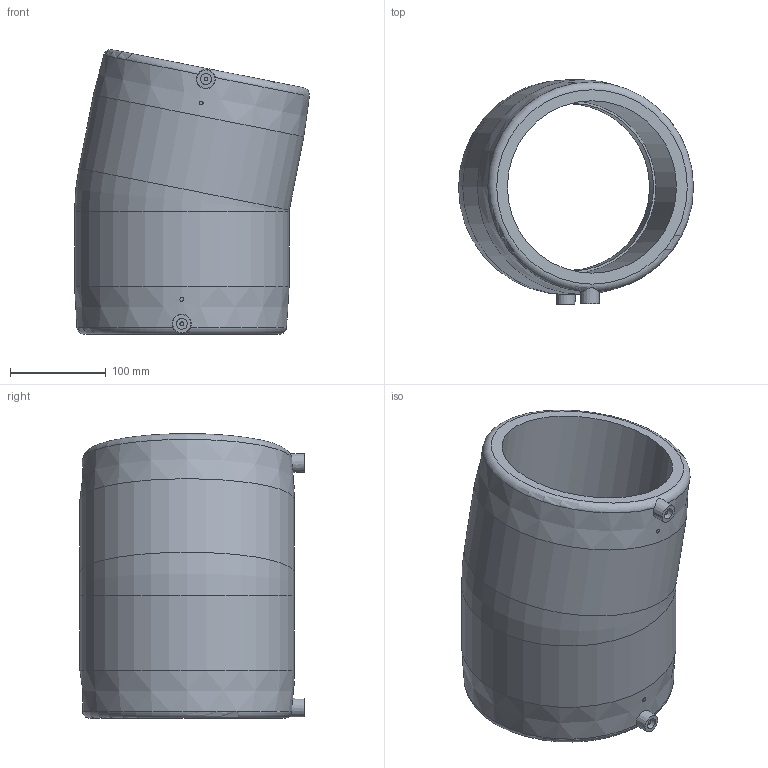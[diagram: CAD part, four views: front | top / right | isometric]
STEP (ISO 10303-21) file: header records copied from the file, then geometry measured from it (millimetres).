
FILE_DESCRIPTION(/* description */ ('Unknown'),/* implementation_level */ '2;1');
FILE_NAME(/* name */ 'GE1125P180C',/* time_stamp */ '2021-01-25T16:16:21+01:00',/* author */ ('Unknown'),/* organization */ ('Unknown'),/* preprocessor_version */ 'ST-DEVELOPER v16.7',/* originating_system */ 'Solid Edge',/* authorisation */ 'Unknown');
FILE_SCHEMA (('AUTOMOTIVE_DESIGN {1 0 10303 214 3 1 1}'));
Length unit declared in the file: millimetre
Products named in the file (1): GE1125P180C
Bounding box: 245.26 x 234 x 297.25 mm (x, y, z)
Volume: 3875787.1 mm3; surface area: 378855.8 mm2
Topology: 1 solids, 1 shells, 32 faces, 75 edges, 53 vertices
Faces by surface type: plane 12, cylinder 12, cone 4, torus 4
Full cylindrical faces by diameter (mm): 4 x4, 11.5 x2, 175 x2, 180 x2, 224 x2
Entity records: 844 total; most frequent: CARTESIAN_POINT 192, DIRECTION 140, ORIENTED_EDGE 90, AXIS2_PLACEMENT_3D 70, EDGE_LOOP 61, FACE_BOUND 61, EDGE_CURVE 45, VERTEX_POINT 42
